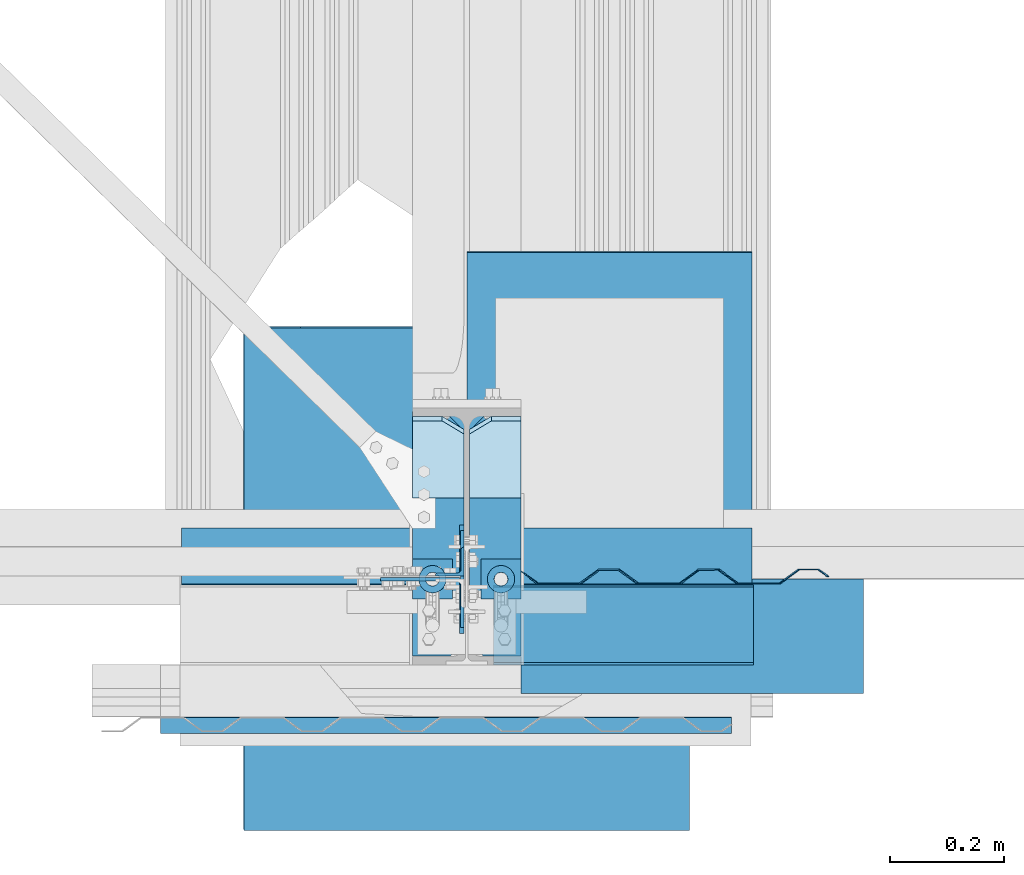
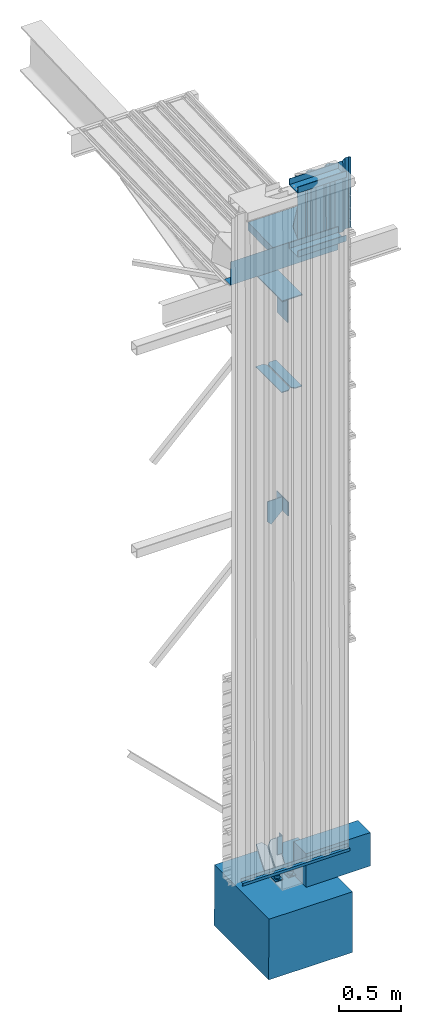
# One storey, part 3 of 18: 17 beams, 5 plates, 1 slab, 5 openings, 19 elements without a shape of their own.
"""IFC2X3 building model written with IfcOpenShell, lengths in millimetres."""

from ifc_helpers import new_model, si_unit, frame, origin_with_axes, origin_2d_with_axis, place, context, subcontext, project, spatial, polyline, rectangle, hollow_circle, l_section, u_section, outline, extrude, clip, halfspace, faceted_brep, material, layer, layer_set, layer_usage, type_object, element, aggregate, save


model = new_model("IFC2X3")

# Units and contexts
model_context = context("Model", 3, precision=1e-05, world=origin_with_axes())
body_context = subcontext(model_context, "Body", "Model", "MODEL_VIEW")
ifc_project = project(units=[si_unit("LENGTHUNIT", "METRE", prefix="MILLI"), si_unit("AREAUNIT", "SQUARE_METRE"), si_unit("VOLUMEUNIT", "CUBIC_METRE"), si_unit("MASSUNIT", "GRAM", prefix="KILO"), si_unit("TIMEUNIT", "SECOND"), si_unit("PLANEANGLEUNIT", "RADIAN"), si_unit("SOLIDANGLEUNIT", "STERADIAN"), si_unit("THERMODYNAMICTEMPERATUREUNIT", "DEGREE_CELSIUS"), si_unit("LUMINOUSINTENSITYUNIT", "LUMEN")], contexts=[model_context])

# Site, building, storey
site_placement = place(None, origin_with_axes())
site = spatial("IfcSite", under=ifc_project, at=site_placement, Name="Undefined", CompositionType="ELEMENT")
building_placement = place(site_placement, origin_with_axes())
building = spatial("IfcBuilding", under=site, at=building_placement, Name="Undefined", CompositionType="ELEMENT")
storey_placement = place(building_placement, origin_with_axes())
storey = spatial("IfcBuildingStorey", under=building, at=storey_placement, Name="Undefined", CompositionType="ELEMENT", Elevation=0.0)

# Assembly, beam
assembly_1_placement = place(storey_placement, frame((-2.3513798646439, -154.978240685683, 5929.55000034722), z_axis=(0.0, 0.999999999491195, 3.190000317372e-05), x_axis=(1.0, 0.0, 0.0)))
assembly_1 = element("IfcElementAssembly", 1, at=assembly_1_placement, inside=storey, Name="lisseBasse", PredefinedType="NOTDEFINED")
ifc_material_1 = material(Name="STEEL/S235JR")
beam_type_1 = type_object("IfcBeamType", Name="UPF-140*60*4", PredefinedType="NOTDEFINED")
beam_1_placement = place(storey_placement, frame((-2.3513798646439, -154.978240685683, 5929.55000034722), z_axis=(0.0, 0.999999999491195, 3.190000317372e-05), x_axis=(1.0, 0.0, 0.0)))
beam_1 = element("IfcBeam", 2, at=beam_1_placement, type_object=beam_type_1, material=ifc_material_1, Name="LISSE BASSE", ObjectType="UPF-140*60*4", context=body_context, shape_type="Clipping", body=[
    clip(extrude(u_section(Depth=140.0, FlangeWidth=60.0, WebThickness=4.0, FlangeThickness=4.0, at=origin_2d_with_axis()), frame((504.699999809, 0.0, 0.0), z_axis=(-1.0, 0.0, 0.0), x_axis=(0.0, -1.0, -6.7762635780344e-21)), (0.0, 0.0, 1.0), 504.699999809), halfspace(frame((48.8499998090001, -30.0000028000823, -69.9999979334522), z_axis=(-1.0, 0.0, 0.0), x_axis=(0.0, 1.0, 0.0)), False)),
])
aggregate(assembly_1, [beam_1])

assembly_2_placement = place(storey_placement, frame((-2.34999970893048, -155.000950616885, 6559.99999998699), z_axis=(0.0, 0.999999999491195, 3.190000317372e-05), x_axis=(1.0, 0.0, 0.0)))
assembly_2 = element("IfcElementAssembly", 3, at=assembly_2_placement, inside=storey, Name="lisseBasse", PredefinedType="NOTDEFINED")
beam_2_placement = place(storey_placement, frame((-2.34999970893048, -155.000950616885, 6559.99999998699), z_axis=(0.0, 0.999999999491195, 3.190000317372e-05), x_axis=(1.0, 0.0, 0.0)))
beam_2 = element("IfcBeam", 4, at=beam_2_placement, type_object=beam_type_1, material=ifc_material_1, Name="LISSE HAUTE", ObjectType="UPF-140*60*4", context=body_context, shape_type="Clipping", body=[
    clip(extrude(u_section(Depth=140.0, FlangeWidth=60.0, WebThickness=4.0, FlangeThickness=4.0, at=origin_2d_with_axis()), frame((504.699999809, 0.0, 0.0), z_axis=(-1.0, 0.0, 0.0), x_axis=(0.0, -1.0, -6.7762635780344e-21)), (0.0, 0.0, 1.0), 504.699999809), halfspace(frame((48.8499998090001, -30.0000028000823, -69.9999979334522), z_axis=(-1.0, 0.0, 0.0), x_axis=(0.0, 1.0, 0.0)), False)),
])
aggregate(assembly_2, [beam_2])

# Assembly, beam, opening
assembly_3_placement = place(storey_placement, frame((250.0, 498.170774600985, 5783.19224052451), z_axis=(0.0, 0.0235642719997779, -0.999722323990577), x_axis=(0.0, -0.999722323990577, -0.0235642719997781)))
assembly_3 = element("IfcElementAssembly", 5, at=assembly_3_placement, inside=storey, Name="isolant", PredefinedType="NOTDEFINED")
ifc_material_2 = material(Name="MISCELLANEOUS/ISOLANT")
beam_type_2 = type_object("IfcBeamType", Name="80*500", PredefinedType="NOTDEFINED")
beam_3_placement = place(storey_placement, frame((250.0, 498.170774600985, 5783.19224052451), z_axis=(0.0, 0.0235642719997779, -0.999722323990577), x_axis=(0.0, -0.999722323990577, -0.0235642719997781)))
beam_3 = element("IfcBeam", 6, at=beam_3_placement, type_object=beam_type_2, material=ifc_material_2, Name="PANNEAUTOIT FIBAC 2", ObjectType="80*500", context=body_context, shape_type="SweptSolid", body=[
    extrude(rectangle(XDim=500.0, YDim=80.0, at=origin_2d_with_axis()), frame((577.773779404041, 8.81556161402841e-10, 2.56928950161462e-09), z_axis=(-1.0, 0.0, 0.0), x_axis=(0.0, -1.0, -6.7762635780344e-21)), (0.0, 0.0, 1.0), 577.773779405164),
])
opening_1_placement = place(storey_placement, frame((250.0, 498.170774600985, 5783.19224052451), z_axis=(0.0, 0.0235642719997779, -0.999722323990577), x_axis=(0.0, -0.999722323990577, -0.0235642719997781)))
element("IfcOpeningElement", 7, at=opening_1_placement, cuts=beam_3, ObjectType="Recess", context=body_context, shape_type="SweptSolid", body=[
    extrude(outline(polyline([(0.0, 0.0), (62.4840660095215, -5.11590769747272e-13), (190.410888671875, 50.8830451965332), (190.659484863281, 142.811065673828), (118.26441192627, 196.288131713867), (-13.1200275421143, 151.791793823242), (-85.7957153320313, 84.2834014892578), (-64.8943710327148, 15.904896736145), (-35.0362014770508, 9.36854457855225), (-34.3260345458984, 9.6090669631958), (0.0, 0.0)])), frame((490.940500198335, -74.7484668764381, -37.2847658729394), z_axis=(3.42218286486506e-07, -0.00122797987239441, 0.999999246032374), x_axis=(-0.947155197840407, 0.32077542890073, 0.000394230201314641)), (0.0, 0.0, 1.0), 155.0),
])
aggregate(assembly_3, [beam_3])

# Assembly, beam
assembly_4_placement = place(storey_placement, frame((-36.5000000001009, -317.219329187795, 30.9970561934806), z_axis=(-1.0, 0.0, 0.0), x_axis=(2.35338842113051e-13, 3.18999996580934e-05, -0.999999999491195)))
assembly_4 = element("IfcElementAssembly", 8, at=assembly_4_placement, inside=storey, Name="bavette", PredefinedType="NOTDEFINED")
beam_type_3 = type_object("IfcBeamType", Name="1000*0.63", PredefinedType="NOTDEFINED")
beam_4_placement = place(storey_placement, frame((-36.5000000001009, -317.219329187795, 30.9970561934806), z_axis=(-1.0, 0.0, 0.0), x_axis=(2.35338842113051e-13, 3.18999996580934e-05, -0.999999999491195)))
beam_4 = element("IfcBeam", 9, at=beam_4_placement, type_object=beam_type_3, material=ifc_material_1, Name="BAVETTE", ObjectType="1000*0.63", context=body_context, shape_type="Brep", body=[
    faceted_brep([(-9.45021838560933e-13, -0.314999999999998, -500.0), (-9.45021838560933e-13, -0.314999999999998, 500.0), (9.45021838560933e-13, 0.314999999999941, 500.0), (9.45021838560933e-13, 0.314999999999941, -500.0), (31.3738437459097, 0.314999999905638, 500.0), (31.3738437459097, 0.314999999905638, -500.0), (32.0038681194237, -0.31500000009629, -500.0), (32.0038681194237, -0.31500000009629, 500.0), (31.3727565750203, 28.4164428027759, 500.0), (31.3727565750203, 28.4164428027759, -500.0), (32.0027809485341, 27.7864428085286, -500.0), (32.0027809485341, 27.7864428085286, 500.0), (57.809041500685, 28.4164430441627, 500.0), (57.809041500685, 28.4164430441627, -500.0), (57.0027809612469, 27.7864430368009, -500.0), (57.0027809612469, 27.7864430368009, 500.0), (54.1126918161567, 13.5833855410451, 500.0), (54.1126918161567, 13.5833855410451, -500.0), (53.5013866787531, 13.7357207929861, 500.0), (53.5013866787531, 13.7357207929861, -500.0)], [[[0, 1, 2, 3]], [[3, 2, 4, 5]], [[1, 0, 6, 7]], [[5, 4, 8, 9]], [[7, 6, 10, 11]], [[9, 8, 12, 13]], [[11, 10, 14, 15]], [[13, 12, 16, 17]], [[12, 8, 4, 2, 1, 7, 11, 15, 18, 16]], [[15, 14, 19, 18]], [[14, 10, 6, 0, 3, 5, 9, 13, 17, 19]], [[18, 19, 17, 16]]]),
])
aggregate(assembly_4, [beam_4])

assembly_5_placement = place(storey_placement, frame((59.999999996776, -109.999999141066, -280.000000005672), z_axis=(1.0, 0.0, 0.0), x_axis=(0.0, 1.0, 0.0)))
assembly_5 = element("IfcElementAssembly", 10, at=assembly_5_placement, inside=storey, Name="plaque", PredefinedType="NOTDEFINED")
beam_type_4 = type_object("IfcBeamType", Name="PL10*70", PredefinedType="NOTDEFINED")
beam_5_placement = place(storey_placement, frame((59.999999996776, -109.999999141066, -280.000000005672), z_axis=(1.0, 0.0, 0.0), x_axis=(0.0, 1.0, 0.0)))
beam_5 = element("IfcBeam", 11, at=beam_5_placement, type_object=beam_type_4, material=ifc_material_1, Name="CONTRE PLAQUE", ObjectType="PL10*70", context=body_context, shape_type="SweptSolid", body=[
    extrude(rectangle(XDim=10.0, YDim=70.0, at=origin_2d_with_axis()), frame((69.9999999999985, 0.0, 7.21460628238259e-29), z_axis=(-1.0, 0.0, 0.0), x_axis=(0.0, -1.0, -6.7762635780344e-21)), (0.0, 0.0, 1.0), 69.9999999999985),
])
aggregate(assembly_5, [beam_5])

assembly_6_placement = place(storey_placement, frame((-60.0000000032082, -109.999999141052, -280.0000000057), z_axis=(-1.0, 0.0, 0.0), x_axis=(0.0, 1.0, 0.0)))
assembly_6 = element("IfcElementAssembly", 12, at=assembly_6_placement, inside=storey, Name="plaque", PredefinedType="NOTDEFINED")
beam_6_placement = place(storey_placement, frame((-60.0000000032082, -109.999999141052, -280.0000000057), z_axis=(-1.0, 0.0, 0.0), x_axis=(0.0, 1.0, 0.0)))
beam_6 = element("IfcBeam", 13, at=beam_6_placement, type_object=beam_type_4, material=ifc_material_1, Name="CONTRE PLAQUE", ObjectType="PL10*70", context=body_context, shape_type="SweptSolid", body=[
    extrude(rectangle(XDim=10.0, YDim=70.0, at=origin_2d_with_axis()), frame((69.9999999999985, 0.0, 7.21460628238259e-29), z_axis=(-1.0, 0.0, 0.0), x_axis=(0.0, -1.0, -6.7762635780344e-21)), (0.0, 0.0, 1.0), 69.9999999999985),
])
aggregate(assembly_6, [beam_6])

assembly_7_placement = place(storey_placement, frame((59.9999999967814, -74.9999991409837, -263.000000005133), z_axis=(0.0, -1.0, -6.7762635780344e-21), x_axis=(2.350712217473e-13, -3.38692037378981e-13, -1.0)))
assembly_7 = element("IfcElementAssembly", 14, at=assembly_7_placement, inside=storey, Name="RONDELLE", PredefinedType="NOTDEFINED")
beam_type_5 = type_object("IfcBeamType", Name="PD48*12", PredefinedType="NOTDEFINED")
beam_7_placement = place(storey_placement, frame((59.9999999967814, -74.9999991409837, -263.000000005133), z_axis=(0.0, -1.0, -6.7762635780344e-21), x_axis=(2.350712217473e-13, -3.38692037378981e-13, -1.0)))
beam_7 = element("IfcBeam", 15, at=beam_7_placement, type_object=beam_type_5, material=ifc_material_1, Name="RONDELLE", ObjectType="PD48*12", context=body_context, shape_type="SweptSolid", body=[
    extrude(hollow_circle(Radius=24.0, WallThickness=12.0, at=origin_2d_with_axis()), frame((12.0, -6.05845175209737e-28, 0.0), z_axis=(-1.0, 0.0, 0.0), x_axis=(0.0, -1.0, -6.7762635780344e-21)), (0.0, 0.0, 1.0), 12.0),
])
aggregate(assembly_7, [beam_7])

assembly_8_placement = place(storey_placement, frame((-60.0000000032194, -74.9999991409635, -239.00000000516), z_axis=(-1.0, 0.0, 0.0), x_axis=(2.350712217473e-13, -3.38692037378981e-13, -1.0)))
assembly_8 = element("IfcElementAssembly", 16, at=assembly_8_placement, inside=storey, Name="Assembly", PredefinedType="NOTDEFINED")
beam_8_placement = place(storey_placement, frame((-60.0000000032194, -74.9999991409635, -239.00000000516), z_axis=(-1.0, 0.0, 0.0), x_axis=(2.350712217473e-13, -3.38692037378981e-13, -1.0)))
beam_8 = element("IfcBeam", 17, at=beam_8_placement, type_object=beam_type_5, material=ifc_material_1, Name="ECROU", ObjectType="PD48*12", context=body_context, shape_type="SweptSolid", body=[
    extrude(hollow_circle(Radius=24.0, WallThickness=12.0, at=origin_2d_with_axis()), frame((23.9999976, 0.0, 0.0), z_axis=(-1.0, 0.0, 0.0), x_axis=(0.0, -1.0, -6.7762635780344e-21)), (0.0, 0.0, 1.0), 23.9999976),
])
aggregate(assembly_8, [beam_8])

assembly_9_placement = place(storey_placement, frame((-60.0000000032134, -74.9999991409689, -263.00000000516), z_axis=(0.0, -1.0, -6.7762635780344e-21), x_axis=(2.350712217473e-13, -3.38692037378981e-13, -1.0)))
assembly_9 = element("IfcElementAssembly", 18, at=assembly_9_placement, inside=storey, Name="Assembly", PredefinedType="NOTDEFINED")
beam_9_placement = place(storey_placement, frame((-60.0000000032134, -74.9999991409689, -263.00000000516), z_axis=(0.0, -1.0, -6.7762635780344e-21), x_axis=(2.350712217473e-13, -3.38692037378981e-13, -1.0)))
beam_9 = element("IfcBeam", 19, at=beam_9_placement, type_object=beam_type_5, material=ifc_material_1, Name="RONDELLE", ObjectType="PD48*12", context=body_context, shape_type="SweptSolid", body=[
    extrude(hollow_circle(Radius=24.0, WallThickness=12.0, at=origin_2d_with_axis()), frame((12.0, -6.05845175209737e-28, 0.0), z_axis=(-1.0, 0.0, 0.0), x_axis=(0.0, -1.0, -6.7762635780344e-21)), (0.0, 0.0, 1.0), 12.0),
])
aggregate(assembly_9, [beam_9])

assembly_10_placement = place(storey_placement, frame((59.9999999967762, -74.999999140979, -239.000000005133), z_axis=(1.0, 0.0, 0.0), x_axis=(2.350712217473e-13, -3.38692037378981e-13, -1.0)))
assembly_10 = element("IfcElementAssembly", 20, at=assembly_10_placement, inside=storey, Name="ECROU", PredefinedType="NOTDEFINED")
beam_10_placement = place(storey_placement, frame((59.9999999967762, -74.999999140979, -239.000000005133), z_axis=(1.0, 0.0, 0.0), x_axis=(2.350712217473e-13, -3.38692037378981e-13, -1.0)))
beam_10 = element("IfcBeam", 21, at=beam_10_placement, type_object=beam_type_5, material=ifc_material_1, Name="ECROU", ObjectType="PD48*12", context=body_context, shape_type="SweptSolid", body=[
    extrude(hollow_circle(Radius=24.0, WallThickness=12.0, at=origin_2d_with_axis()), frame((23.9999976, 0.0, 0.0), z_axis=(-1.0, 0.0, 0.0), x_axis=(0.0, -1.0, -6.7762635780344e-21)), (0.0, 0.0, 1.0), 24.0),
])
aggregate(assembly_10, [beam_10])

assembly_11_placement = place(storey_placement, frame((94.9999999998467, -174.994730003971, -135.070364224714), z_axis=(2.86064505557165e-14, -0.999999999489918, -3.19400002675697e-05), x_axis=(1.0, 0.0, 0.0)))
assembly_11 = element("IfcElementAssembly", 22, at=assembly_11_placement, inside=storey, Name="massif", PredefinedType="REINFORCEMENT_UNIT")
ifc_material_3 = material(Name="CONCRETE/C30/37")
beam_type_6 = type_object("IfcBeamType", Name="200*330", PredefinedType="NOTDEFINED")
beam_11_placement = place(storey_placement, frame((94.9999999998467, -174.994730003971, -135.070364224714), z_axis=(2.86064505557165e-14, -0.999999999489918, -3.19400002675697e-05), x_axis=(1.0, 0.0, 0.0)))
beam_11 = element("IfcBeam", 23, at=beam_11_placement, type_object=beam_type_6, material=ifc_material_3, Name="LONGRINE", ObjectType="200*330", context=body_context, shape_type="SweptSolid", body=[
    extrude(rectangle(XDim=330.0, YDim=200.0, at=origin_2d_with_axis()), frame((600.0, 0.0, -9.48019755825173e-28), z_axis=(-1.0, 0.0, 0.0), x_axis=(0.0, -1.0, -6.7762635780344e-21)), (0.0, 0.0, 1.0), 600.0),
])
aggregate(assembly_11, [beam_11])

# Assembly, beam, opening
assembly_12_placement = place(storey_placement, frame((72.6439889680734, -70.6306113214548, 6588.98260005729), z_axis=(0.000572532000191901, -0.999999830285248, -0.000107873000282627), x_axis=(0.00397041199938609, 0.000110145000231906, -0.999992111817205)))
assembly_12 = element("IfcElementAssembly", 24, at=assembly_12_placement, inside=storey, Name="contrebardage", PredefinedType="NOTDEFINED")
beam_type_7 = type_object("IfcBeamType", Name="ARVAL_FBV_HACIERBA_6.175.25_B_63", PredefinedType="NOTDEFINED")
beam_12_placement = place(storey_placement, frame((72.6439889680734, -70.6306113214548, 6588.98260005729), z_axis=(0.000572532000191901, -0.999999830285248, -0.000107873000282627), x_axis=(0.00397041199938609, 0.000110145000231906, -0.999992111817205)))
beam_12 = element("IfcBeam", 25, at=beam_12_placement, type_object=beam_type_7, material=ifc_material_1, Name="CONTREBARDAGE", ObjectType="ARVAL_FBV_HACIERBA_6.175.25_B_63", context=body_context, shape_type="SweptSolid", body=[
    extrude(outline(polyline([(-558.510009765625, 0.5), (-559.150024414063, -0.379999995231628), (-542.5, -12.5), (-507.5, -12.5), (-474.519989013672, 11.5), (-400.480010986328, 11.5), (-367.5, -12.5), (-332.5, -12.5), (-299.519989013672, 11.5), (-225.479995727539, 11.5), (-192.5, -12.5), (-157.5, -12.5), (-124.519996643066, 11.5), (-50.4799995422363, 11.5), (-17.5, -12.5), (17.5, -12.5), (50.4799995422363, 11.5), (124.519996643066, 11.5), (157.5, -12.5), (192.5, -12.5), (225.479995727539, 11.5), (299.519989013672, 11.5), (332.5, -12.5), (367.5, -12.5), (400.480010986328, 11.5), (474.519989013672, 11.5), (507.5, -12.5), (542.5, -12.5), (542.5, -11.5), (507.980010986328, -11.5), (475.0, 12.5), (400.0, 12.5), (367.019989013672, -11.5), (332.980010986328, -11.5), (300.0, 12.5), (225.0, 12.5), (192.020004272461, -11.5), (157.979995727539, -11.5), (125.0, 12.5), (50.0, 12.5), (17.0200004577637, -11.5), (-17.0200004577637, -11.5), (-50.0, 12.5), (-125.0, 12.5), (-157.979995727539, -11.5), (-192.020004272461, -11.5), (-225.0, 12.5), (-300.0, 12.5), (-332.980010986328, -11.5), (-367.019989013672, -11.5), (-400.0, 12.5), (-475.0, 12.5), (-507.980010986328, -11.5), (-542.02001953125, -11.5), (-558.510009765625, 0.5)])), frame((701.919240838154, 2.46928931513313e-09, -8.12714375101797e-10), z_axis=(-1.0, 0.0, 0.0), x_axis=(0.0, -1.0, -6.7762635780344e-21)), (0.0, 0.0, 1.0), 701.919240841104),
])
opening_2_placement = place(storey_placement, frame((72.6439889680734, -70.6306113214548, 6588.98260005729), z_axis=(0.000572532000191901, -0.999999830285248, -0.000107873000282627), x_axis=(0.00397041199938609, 0.000110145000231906, -0.999992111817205)))
element("IfcOpeningElement", 26, at=opening_2_placement, cuts=beam_12, ObjectType="Recess", context=body_context, shape_type="SweptSolid", body=[
    extrude(outline(polyline([(0.0, 0.0), (295.920013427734, 1.1817746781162e-10), (510.103088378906, 45.3372993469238), (706.251525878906, 6.27594709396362), (784.874389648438, 45.0840950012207), (743.919738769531, 758.06884765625), (-40.9546203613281, 712.984741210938), (0.0275270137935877, -0.479221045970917), (0.0, 0.0)])), frame((-6.58878176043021, 37.323409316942, 14.4691039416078), z_axis=(0.000108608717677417, -1.59475730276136e-08, -0.999999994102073), x_axis=(0.99837863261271, 0.0569218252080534, 0.000108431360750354)), (0.0, 0.0, 1.0), 31.0),
])
aggregate(assembly_12, [beam_12])

# Assembly, beam
assembly_13_placement = place(storey_placement, frame((9.73320939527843e-06, 14.9999999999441, 5728.83852900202), z_axis=(-1.0, 0.0, 0.0), x_axis=(0.0, -1.0, -6.7762635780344e-21)))
assembly_13 = element("IfcElementAssembly", 27, at=assembly_13_placement, inside=storey, Name="costière", PredefinedType="NOTDEFINED")
beam_type_8 = type_object("IfcBeamType", Name="1000*1.5", PredefinedType="NOTDEFINED")
beam_13_placement = place(storey_placement, frame((9.73320939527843e-06, 14.9999999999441, 5728.83852900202), z_axis=(-1.0, 0.0, 0.0), x_axis=(0.0, -1.0, -6.7762635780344e-21)))
beam_13 = element("IfcBeam", 28, at=beam_13_placement, type_object=beam_type_8, material=ifc_material_1, Name="COSTIERE", ObjectType="1000*1.5", context=body_context, shape_type="Brep", body=[
    faceted_brep([(1.26121335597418e-13, -0.75, -500.0), (1.26121335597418e-13, -0.75, 500.0), (-1.24344978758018e-13, 0.75, 500.0), (-1.24344978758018e-13, 0.75, -500.0), (98.5000000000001, 0.750000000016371, 500.0), (98.5000000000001, 0.750000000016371, -500.0), (100.0, -0.749999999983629, -500.0), (100.0, -0.749999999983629, 500.0), (98.4999999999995, 230.710006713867, 500.0), (98.4999999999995, 230.710006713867, -500.0), (99.9999999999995, 230.710006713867, 500.0), (99.9999999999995, 230.710006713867, -500.0)], [[[0, 1, 2, 3]], [[3, 2, 4, 5]], [[1, 0, 6, 7]], [[5, 4, 8, 9]], [[4, 2, 1, 7, 10, 8]], [[7, 6, 11, 10]], [[6, 0, 3, 5, 9, 11]], [[10, 11, 9, 8]]]),
])
aggregate(assembly_13, [beam_13])

assembly_14_placement = place(storey_placement, frame((-29.6999998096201, -44.0007899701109, 120.584934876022), z_axis=(-1.0, 0.0, 0.0), x_axis=(2.35338842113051e-13, 3.18999996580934e-05, -0.999999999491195)))
assembly_14 = element("IfcElementAssembly", 29, at=assembly_14_placement, inside=storey, Name="CV", PredefinedType="NOTDEFINED")
beam_type_9 = type_object("IfcBeamType", Name="L50*5", PredefinedType="NOTDEFINED")
beam_14_placement = place(storey_placement, frame((-29.6999998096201, -44.0007899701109, 120.584934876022), z_axis=(-1.0, 0.0, 0.0), x_axis=(2.35338842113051e-13, 3.18999996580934e-05, -0.999999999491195)))
beam_14 = element("IfcBeam", 30, at=beam_14_placement, type_object=beam_type_9, material=ifc_material_1, Name="ATTACHE CV", ObjectType="L50*5", context=body_context, shape_type="SweptSolid", body=[
    extrude(l_section(Depth=50.0, Width=50.0, Thickness=5.0, FilletRadius=7.0, EdgeRadius=3.5, at=origin_2d_with_axis()), frame((175.000000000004, 0.0, 4.41762106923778e-27), z_axis=(-1.0, 0.0, 0.0), x_axis=(0.0, -1.0, -6.7762635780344e-21)), (0.0, 0.0, 1.0), 175.000000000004),
])
aggregate(assembly_14, [beam_14])

# Assembly, beams
assembly_15_placement = place(storey_placement, frame((2.06348271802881e-11, 3.86737777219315e-11, -299.999999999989), z_axis=(0.0, 1.0, 0.0), x_axis=(0.0, 0.0, 1.0)))
assembly_15 = element("IfcElementAssembly", 31, at=assembly_15_placement, inside=storey, Name="POTEAU", PredefinedType="NOTDEFINED")
beam_type_10 = type_object("IfcBeamType", Name="PL10*190", PredefinedType="NOTDEFINED")
beam_15_placement = place(storey_placement, frame((-3.74566525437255e-10, 219.000000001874, 5508.99941189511), z_axis=(1.0, 0.0, 0.0), x_axis=(0.0, -1.0, -6.7762635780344e-21)))
beam_15 = element("IfcBeam", 32, at=beam_15_placement, type_object=beam_type_10, material=ifc_material_1, Name="CAP PLATE", ObjectType="PL10*190", context=body_context, shape_type="SweptSolid", body=[
    extrude(rectangle(XDim=10.0, YDim=190.0, at=origin_2d_with_axis()), frame((438.000000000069, 0.0, 2.05541690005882e-25), z_axis=(-1.0, 0.0, 0.0), x_axis=(0.0, -1.0, -6.7762635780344e-21)), (0.0, 0.0, 1.0), 438.000000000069),
])
beam_type_11 = type_object("IfcBeamType", Name="PL8*90", PredefinedType="NOTDEFINED")
beam_16_placement = place(storey_placement, frame((-49.699999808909, -209.999999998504, 4604.44238998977), z_axis=(1.0, 0.0, 0.0), x_axis=(0.0, 1.0, 0.0)))
beam_16 = element("IfcBeam", 33, at=beam_16_placement, type_object=beam_type_11, material=ifc_material_1, Name="TOLE", ObjectType="PL8*90", context=body_context, shape_type="Clipping", body=[
    clip(clip(extrude(rectangle(XDim=8.0, YDim=90.0, at=origin_2d_with_axis()), frame((419.99999996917, -1.13686837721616e-13, 0.0), z_axis=(-1.0, 0.0, 0.0), x_axis=(0.0, -1.0, -6.7762635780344e-21)), (0.0, 0.0, 1.0), 420.0), halfspace(frame((485.0, -4.00000000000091, -45.0), z_axis=(0.707106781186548, 0.0, 0.707106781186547), x_axis=(-0.707106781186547, 0.0, 0.707106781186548)), False)), halfspace(frame((-65.0000000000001, 3.99999999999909, -45.0), z_axis=(-0.707106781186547, 0.0, 0.707106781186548), x_axis=(0.707106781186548, 0.0, 0.707106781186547)), False)),
])
beam_17_placement = place(storey_placement, frame((49.699999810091, -209.999999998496, 4604.44238998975), z_axis=(1.0, 0.0, 0.0), x_axis=(0.0, 1.0, 0.0)))
beam_17 = element("IfcBeam", 34, at=beam_17_placement, type_object=beam_type_11, material=ifc_material_1, Name="TOLE", ObjectType="PL8*90", context=body_context, shape_type="Clipping", body=[
    clip(clip(extrude(rectangle(XDim=8.0, YDim=90.0, at=origin_2d_with_axis()), frame((419.99999996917, -1.13686837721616e-13, 0.0), z_axis=(-1.0, 0.0, 0.0), x_axis=(0.0, -1.0, -6.7762635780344e-21)), (0.0, 0.0, 1.0), 420.0), halfspace(frame((395.0, -4.0, -45.0), z_axis=(0.707106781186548, 0.0, -0.707106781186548), x_axis=(0.707106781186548, 0.0, 0.707106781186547)), False)), halfspace(frame((25.0, 4.0, -45.0), z_axis=(-0.707106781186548, 2.51214793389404e-15, -0.707106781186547), x_axis=(-0.707106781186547, 0.0, 0.707106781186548)), False)),
])

# Assembly, slab, openings
assembly_16_placement = place(storey_placement, frame((389.26993359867, -513.531568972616, -602.005854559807), z_axis=(-0.999997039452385, -1.17290000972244e-05, 0.00243330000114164), x_axis=(-1.55034510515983e-15, 0.999988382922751, 0.0048201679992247)))
assembly_16 = element("IfcElementAssembly", 35, at=assembly_16_placement, inside=storey, Name="massif", PredefinedType="REINFORCEMENT_UNIT")
ifc_layer = layer(ifc_material_3, 600.0)
ifc_layer_set = layer_set([ifc_layer], Name="Floor: Insitu CONCRETE/C30/37 600.000000")
ifc_layer_usage = layer_usage(ifc_layer_set, "AXIS3", "POSITIVE", -300.0)
slab_type = type_object("IfcSlabType", Name="600*780", PredefinedType="NOTDEFINED")
slab_placement = place(storey_placement, frame((389.26993359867, -513.531568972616, -602.005854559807), z_axis=(0.00243332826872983, -0.00482015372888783, 0.99998542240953), x_axis=(-1.55034510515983e-15, 0.999988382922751, 0.0048201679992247)))
slab = element("IfcSlab", 36, at=slab_placement, type_object=slab_type, material=ifc_layer_usage, Name="MASSIF", ObjectType="600*780", PredefinedType="FLOOR", context=body_context, shape_type="SweptSolid", body=[
    extrude(outline(polyline([(0.0, 0.0), (879.960266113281, -4.80895323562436e-11), (879.959106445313, 779.981811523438), (0.00935893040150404, 779.992126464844), (0.0, 0.0)])), frame((2.06348271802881e-11, 3.86737777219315e-11, -299.999999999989), z_axis=(0.0, 0.0, 1.0), x_axis=(1.0, 0.0, 0.0)), (0.0, 0.0, 1.0), 600.0),
])
opening_3_placement = place(storey_placement, frame((389.26993359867, -513.531568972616, -602.005854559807), z_axis=(0.00243332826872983, -0.00482015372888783, 0.99998542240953), x_axis=(-1.55034510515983e-15, 0.999988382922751, 0.0048201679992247)))
element("IfcOpeningElement", 37, at=opening_3_placement, cuts=slab, ObjectType="Recess", context=body_context, shape_type="SweptSolid", body=[
    extrude(outline(polyline([(0.0, 0.0), (200.0, 0.0), (200.0, 300.0), (-1.13686837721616e-13, 300.0), (0.0, 0.0)])), frame((337.814279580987, 238.905140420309, -150.205984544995), z_axis=(0.00482016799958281, 0.00243330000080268, 0.999985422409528), x_axis=(0.99998838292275, -1.17290510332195e-05, -0.00482015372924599)), (0.0, 0.0, 1.0), 450.0),
])
opening_4_placement = place(storey_placement, frame((389.26993359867, -513.531568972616, -602.005854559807), z_axis=(0.00243332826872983, -0.00482015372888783, 0.99998542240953), x_axis=(-1.55034510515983e-15, 0.999988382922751, 0.0048201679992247)))
element("IfcOpeningElement", 38, at=opening_4_placement, cuts=slab, ObjectType="Recess", context=body_context, shape_type="SweptSolid", body=[
    extrude(outline(polyline([(0.0, 0.0), (100.0, -4.54747350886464e-13), (100.0, 175.950561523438), (0.0, 0.0)])), frame((339.983355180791, 639.998941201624, 298.814124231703), z_axis=(0.99998838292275, -1.17290510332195e-05, -0.00482015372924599), x_axis=(2.13263506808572e-14, -0.999997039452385, 0.00243332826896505)), (0.0, 0.0, 1.0), 200.0),
])
opening_5_placement = place(storey_placement, frame((389.26993359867, -513.531568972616, -602.005854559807), z_axis=(0.00243332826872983, -0.00482015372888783, 0.99998542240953), x_axis=(-1.55034510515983e-15, 0.999988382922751, 0.0048201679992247)))
element("IfcOpeningElement", 39, at=opening_5_placement, cuts=slab, ObjectType="Recess", context=body_context, shape_type="SweptSolid", body=[
    extrude(outline(polyline([(0.0, 0.0), (479.975799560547, -6.25277607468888e-13), (482.867889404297, 501.366149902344), (-0.00651540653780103, 501.35986328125), (0.0, 0.0)])), frame((401.619709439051, 178.807235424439, -190.367886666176), z_axis=(0.00482016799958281, 0.00243330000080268, 0.999985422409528), x_axis=(0.999988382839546, -2.46290141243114e-05, -0.00482012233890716)), (0.0, 0.0, 1.0), 400.0),
])
aggregate(assembly_16, [slab])

# Plate
plate_type_1 = type_object("IfcPlateType", Name="PL10*90", PredefinedType="NOTDEFINED")
plate_1_placement = place(storey_placement, frame((4.69999980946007, 70.999999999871, -282.000000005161), z_axis=(-1.19226379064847e-13, -0.800000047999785, 0.599999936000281), x_axis=(1.0, 0.0, 0.0)))
plate_1 = element("IfcPlate", 40, at=plate_1_placement, type_object=plate_type_1, material=ifc_material_1, Name="RAIDISSEUR", ObjectType="PL10*90", context=body_context, shape_type="SweptSolid", body=[
    extrude(outline(polyline([(0.0, 0.0), (90.3000030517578, 0.0), (90.3000030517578, 225.66667175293), (38.5999984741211, 225.66667175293), (0.0, 187.066665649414), (0.0, 0.0)])), frame((7.10542735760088e-15, -3.53256313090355e-12, -5.00000000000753), z_axis=(0.0, 0.0, 1.0), x_axis=(1.0, 0.0, 0.0)), (0.0, 0.0, 1.0), 10.0),
])

plate_2_placement = place(storey_placement, frame((-4.69999980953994, 70.9999997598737, -282.000000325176), z_axis=(1.19226379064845e-13, 0.800000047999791, -0.599999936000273), x_axis=(-1.0, 0.0, 0.0)))
plate_2 = element("IfcPlate", 41, at=plate_2_placement, type_object=plate_type_1, material=ifc_material_1, Name="RAIDISSEUR", ObjectType="PL10*90", context=body_context, shape_type="SweptSolid", body=[
    extrude(outline(polyline([(0.0, 0.0), (90.3000030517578, 0.0), (90.3000030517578, 225.66667175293), (38.5999984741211, 225.66667175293), (0.0, 187.066665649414), (0.0, 0.0)])), frame((7.10542735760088e-15, -3.53256313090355e-12, -5.00000000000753), z_axis=(0.0, 0.0, 1.0), x_axis=(1.0, 0.0, 0.0)), (0.0, 0.0, 1.0), 10.0),
])

aggregate(assembly_15, [plate_1, plate_2, beam_15, beam_16, beam_17])

# Assembly, plate
assembly_17_placement = place(storey_placement, frame((-8.70000973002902, -169.999999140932, 3468.9994118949), z_axis=(2.350712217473e-13, -3.38692037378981e-13, -1.0), x_axis=(0.0, 1.0, 0.0)))
assembly_17 = element("IfcElementAssembly", 42, at=assembly_17_placement, inside=storey, Name="GOUSSET", PredefinedType="NOTDEFINED")
plate_type_2 = type_object("IfcPlateType", Name="PL8*135", PredefinedType="NOTDEFINED")
plate_3_placement = place(storey_placement, frame((-8.70000973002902, -169.999999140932, 3468.9994118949), z_axis=(-1.0, 0.0, 0.0), x_axis=(0.0, 1.0, 0.0)))
plate_3 = element("IfcPlate", 43, at=plate_3_placement, type_object=plate_type_2, material=ifc_material_1, Name="GOUSSET", ObjectType="PL8*135", context=body_context, shape_type="SweptSolid", body=[
    extrude(outline(polyline([(0.0, 0.0), (190.0, 0.0), (190.0, 135.313995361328), (-1.91278104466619e-11, 135.313995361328), (0.0, 0.0)])), frame((-1.70530256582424e-13, -3.02922587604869e-28, -4.0), z_axis=(0.0, 0.0, 1.0), x_axis=(1.0, 0.0, 0.0)), (0.0, 0.0, 1.0), 8.0),
])
aggregate(assembly_17, [plate_3])

assembly_18_placement = place(storey_placement, frame((-7.29810163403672e-10, -74.9999991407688, 3346.07530103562), z_axis=(-0.69826325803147, 5.30000097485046e-06, 0.71584105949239), x_axis=(-0.715841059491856, 5.40000037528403e-06, -0.698263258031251)))
assembly_18 = element("IfcElementAssembly", 44, at=assembly_18_placement, inside=storey, Name="GOUSSET", PredefinedType="NOTDEFINED")
plate_type_3 = type_object("IfcPlateType", Name="PL6*139", PredefinedType="NOTDEFINED")
plate_4_placement = place(storey_placement, frame((-7.29810163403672e-10, -74.9999991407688, 3346.07530103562), z_axis=(7.56633753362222e-06, 0.999999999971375, -2.33360429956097e-08), x_axis=(-0.715841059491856, 5.40000037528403e-06, -0.698263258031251)))
plate_4 = element("IfcPlate", 45, at=plate_4_placement, type_object=plate_type_3, material=ifc_material_1, Name="GOUSSET", ObjectType="PL6*139", context=body_context, shape_type="Clipping", body=[
    clip(extrude(outline(polyline([(0.0, 0.0), (162.749404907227, -4.54747350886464e-13), (162.749649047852, 49.9999580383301), (22.5563983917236, 193.722366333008), (-85.833381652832, 87.9941253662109), (0.0, 0.0)])), frame((-7.50107850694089e-11, 5.61158286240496e-10, -2.99999999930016), z_axis=(0.0, 0.0, 1.0), x_axis=(1.0, 0.0, 0.0)), (0.0, 0.0, 1.0), 6.0), halfspace(frame((418.072196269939, -410.408582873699, -8.24239088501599e-05), z_axis=(-0.715841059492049, -0.698263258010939, 7.56633760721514e-06), x_axis=(-0.698263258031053, 0.715841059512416, -2.33358147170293e-08)), False)),
])
aggregate(assembly_18, [plate_4])

assembly_19_placement = place(storey_placement, frame((-7.7000097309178, -159.99999913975, 5468.99941189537), z_axis=(2.350712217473e-13, -3.38692037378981e-13, -1.0), x_axis=(0.0, 1.0, 0.0)))
assembly_19 = element("IfcElementAssembly", 46, at=assembly_19_placement, inside=storey, Name="GOUSSET", PredefinedType="NOTDEFINED")
plate_type_4 = type_object("IfcPlateType", Name="PL6*170", PredefinedType="NOTDEFINED")
plate_5_placement = place(storey_placement, frame((-7.7000097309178, -159.99999913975, 5468.99941189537), z_axis=(-1.0, 0.0, 0.0), x_axis=(0.0, 1.0, 0.0)))
plate_5 = element("IfcPlate", 47, at=plate_5_placement, type_object=plate_type_4, material=ifc_material_1, Name="PLATINE ABOUT", ObjectType="PL6*170", context=body_context, shape_type="SweptSolid", body=[
    extrude(outline(polyline([(0.0, 0.0), (170.0, 0.0), (170.000885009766, 236.574005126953), (0.000891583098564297, 236.574005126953), (0.0, 0.0)])), frame((-7.50107850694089e-11, 5.61158286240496e-10, -2.99999999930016), z_axis=(0.0, 0.0, 1.0), x_axis=(1.0, 0.0, 0.0)), (0.0, 0.0, 1.0), 6.0),
])
aggregate(assembly_19, [plate_5])

save(model, "model.ifc")
